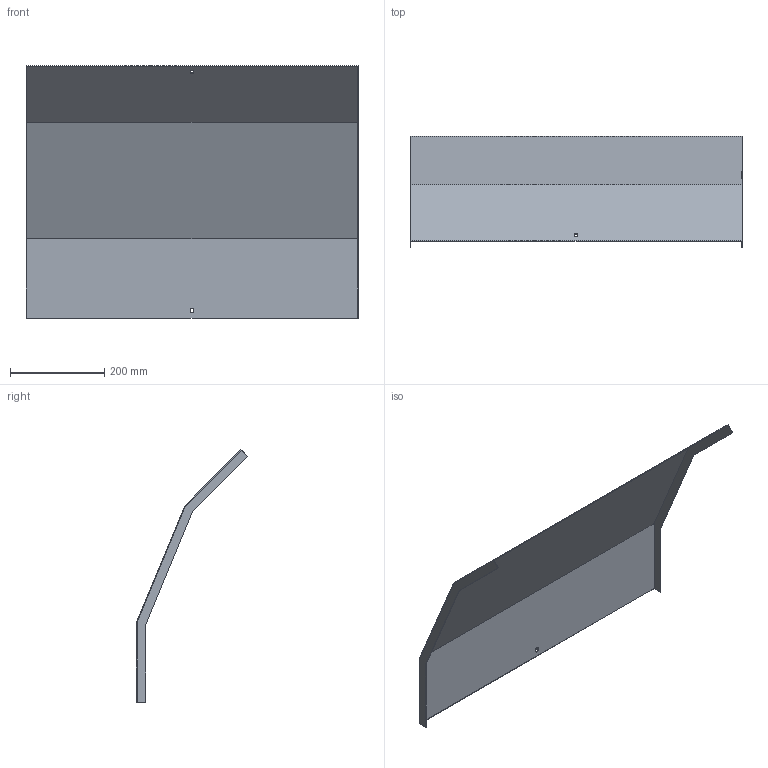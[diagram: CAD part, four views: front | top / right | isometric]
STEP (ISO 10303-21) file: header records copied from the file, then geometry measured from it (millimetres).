
FILE_DESCRIPTION (( 'STEP AP214' ), '1' );
FILE_NAME ('A2_34N3C700.step', '2025-02-21T10:34:30', ( '' ), ( '' ), 'SwSTEP 2.0', 'SolidWorks 2023', '' );
FILE_SCHEMA (( 'AUTOMOTIVE_DESIGN' ));
Length unit declared in the file: millimetre
Products named in the file (1): A2_34N3C700
Bounding box: 703 x 235.79 x 535.1 mm (x, y, z)
Volume: 670174 mm3; surface area: 897647.1 mm2
Topology: 1 solids, 1 shells, 26 faces, 72 edges, 48 vertices
Faces by surface type: plane 26
Entity records: 847 total; most frequent: CARTESIAN_POINT 147, ORIENTED_EDGE 144, DIRECTION 126, EDGE_CURVE 72, VECTOR 72, LINE 72, VERTEX_POINT 48, EDGE_LOOP 30
